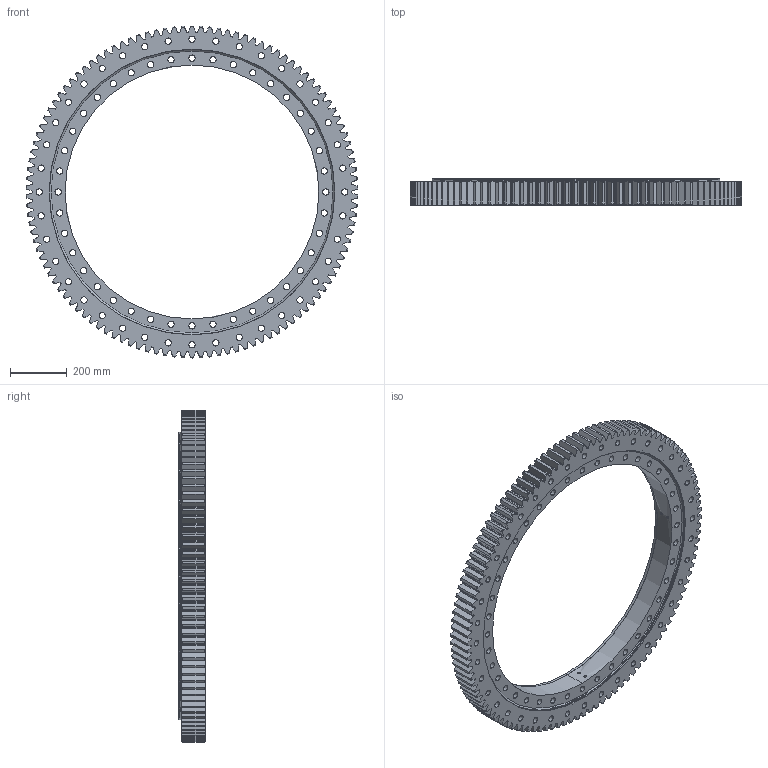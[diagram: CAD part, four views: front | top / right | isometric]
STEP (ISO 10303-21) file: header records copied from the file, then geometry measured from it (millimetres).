
FILE_DESCRIPTION (( 'STEP AP214' ), '1' );
FILE_NAME ('B2220-2-1168AA.STEP', '2022-11-28T14:37:53', ( '' ), ( '' ), 'SwSTEP 2.0', 'SolidWorks 2020', '' );
FILE_SCHEMA (( 'AUTOMOTIVE_DESIGN' ));
Length unit declared in the file: millimetre
Products named in the file (1): B2220-2-1168AA
Bounding box: 1167.76 x 93 x 1168 mm (x, y, z)
Volume: 31058290 mm3; surface area: 2860136.5 mm2
Topology: 4 solids, 4 shells, 1072 faces, 3118 edges, 2077 vertices
Faces by surface type: cylinder 347, plane 259, cone 238, bspline 228
Entity records: 38308 total; most frequent: CARTESIAN_POINT 11240, ORIENTED_EDGE 6236, DIRECTION 4737, EDGE_CURVE 3118, VERTEX_POINT 2077, AXIS2_PLACEMENT_3D 1734, EDGE_LOOP 1279, LINE 1269
